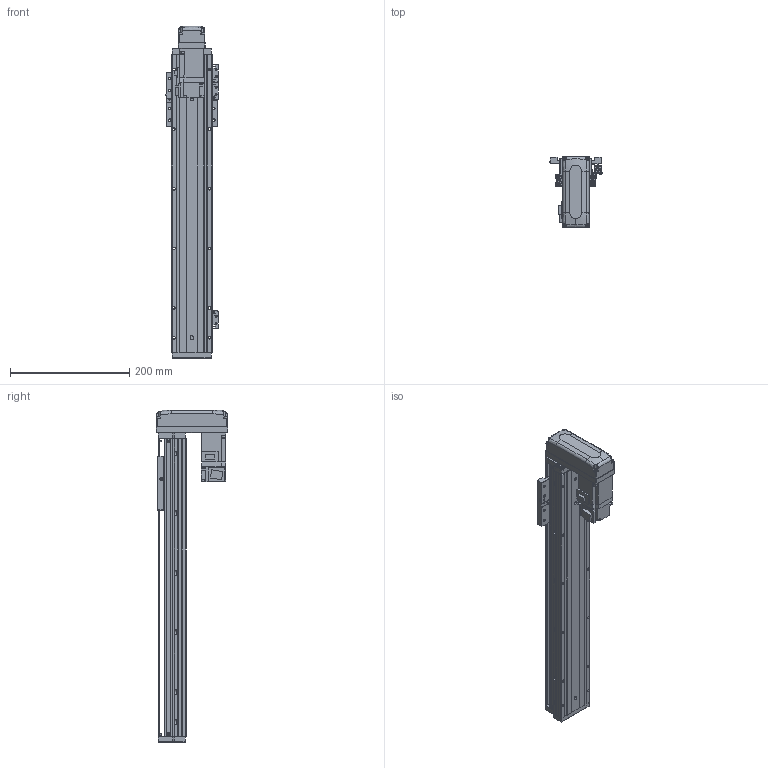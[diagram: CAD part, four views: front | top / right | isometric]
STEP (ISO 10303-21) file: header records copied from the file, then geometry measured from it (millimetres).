
FILE_DESCRIPTION (( 'STEP AP203' ), '1' );
FILE_NAME ('KTHAL60-350-BM-M10-C4L.step', '2022-03-19T08:40:55', ( '微软用户' ), ( '微软中国' ), 'SwSTEP 2.0', 'SolidWorks 2020', '' );
FILE_SCHEMA (( 'CONFIG_CONTROL_DESIGN' ));
Length unit declared in the file: millimetre
Products named in the file (18): GB¨uT 70.2-M3¡Á5_M3¡Á6; CTHA60-015-2_CTHA60-015-2; GBT 70.3-M3℅6; CTHA60-033; EE_SX911P_R; GBT 70.1-M3×15; KTHA60-001_500; CTHA60-017; KTHAL60-350-BM-M10-C4L; GBT 70.1-M3℅6; KTHLA60-002; CTHA60-021; CTHA60-016; KTHA60-004; GBT 70.1-M4×16; HG-KR13（三菱）; KTHA60-005; GBT77-2000M3-3
Assembly tree (51 placements, depth 2):
  KTHAL60-350-BM-M10-C4L
    KTHA60-001_500
    KTHLA60-002
    KTHA60-004
    KTHA60-005
    GB¨uT 70.2-M3¡Á5_M3¡Á6  x5
    GBT 70.3-M3℅6  x4
    EE_SX911P_R  x3
    CTHA60-017  x3
    CTHA60-021  x2
    GBT 70.1-M4×16  x10
    GBT77-2000M3-3  x6
    GBT 70.1-M3℅6  x6
    CTHA60-016
    HG-KR13（三菱）
    CTHA60-015-2_CTHA60-015-2
    CTHA60-033
    GBT 70.1-M3×15  x4
Bounding box: 87.82 x 120 x 557 mm (x, y, z)
Volume: 1288560.8 mm3; surface area: 317911.4 mm2
Topology: 54 solids, 54 shells, 2275 faces, 5387 edges, 3305 vertices
Faces by surface type: plane 1300, cylinder 553, cone 284, torus 98, bspline 26, sphere 14
Entity records: 39347 total; most frequent: CARTESIAN_POINT 7448, DIRECTION 6133, ORIENTED_EDGE 5918, EDGE_CURVE 2959, AXIS2_PLACEMENT_3D 2057, LINE 2019, VECTOR 2019, VERTEX_POINT 1854
